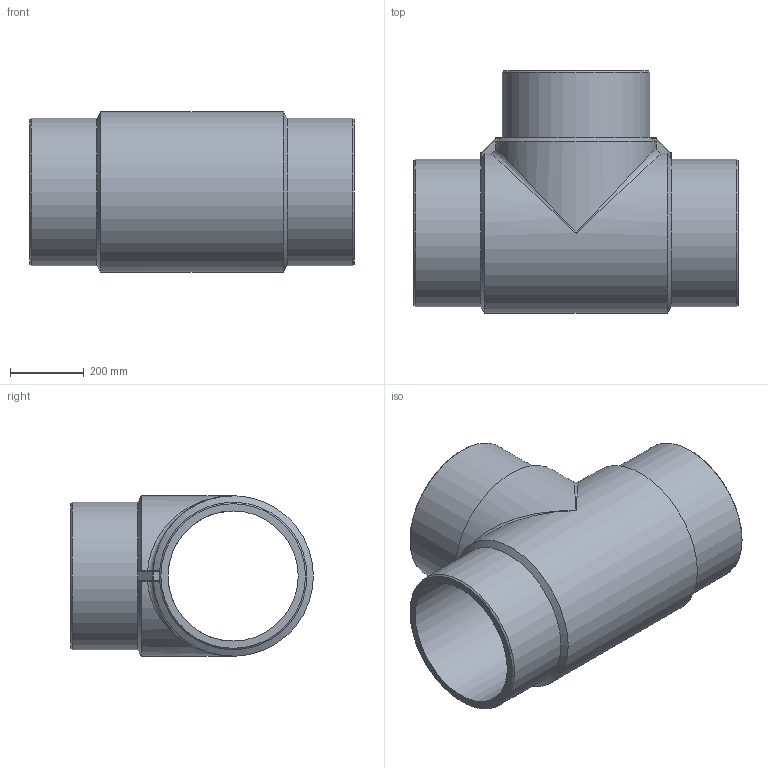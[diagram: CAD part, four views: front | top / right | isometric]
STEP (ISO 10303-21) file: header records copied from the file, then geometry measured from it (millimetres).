
FILE_DESCRIPTION(/* description */ ('Unknown'),/* implementation_level */ '2;1');
FILE_NAME(/* name */ 'TP400B',/* time_stamp */ '2022-06-06T17:14:47+02:00',/* author */ ('Unknown'),/* organization */ ('Unknown'),/* preprocessor_version */ 'ST-DEVELOPER v18.102',/* originating_system */ 'Solid Edge',/* authorisation */ 'Unknown');
FILE_SCHEMA (('AUTOMOTIVE_DESIGN {1 0 10303 214 3 1 1}'));
Length unit declared in the file: millimetre
Products named in the file (1): TP400B
Bounding box: 880 x 658 x 435 mm (x, y, z)
Volume: 41639342.8 mm3; surface area: 2692809.9 mm2
Topology: 1 solids, 1 shells, 64 faces, 159 edges, 84 vertices
Faces by surface type: cylinder 24, plane 21, sphere 8, cone 7, bspline 4
Full cylindrical faces by diameter (mm): 352.6 x2, 400 x3
Entity records: 1920 total; most frequent: CARTESIAN_POINT 533, DIRECTION 288, ORIENTED_EDGE 270, EDGE_CURVE 135, AXIS2_PLACEMENT_3D 120, VERTEX_POINT 81, EDGE_LOOP 76, FACE_BOUND 76
